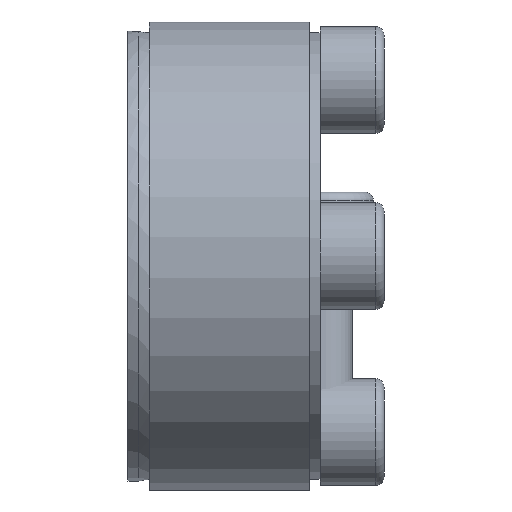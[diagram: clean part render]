
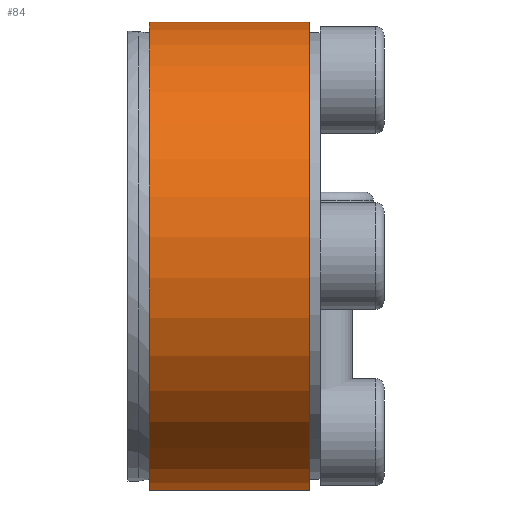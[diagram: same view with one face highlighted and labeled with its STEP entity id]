
A CAD part, left-side view. The second image highlights one B-rep face of the part: STEP entity #84.
In plain terms, the highlighted cylindrical face has radius 22 mm (diameter 44 mm), a partial arc.
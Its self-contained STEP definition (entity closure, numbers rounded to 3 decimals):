
#84 = ADVANCED_FACE( '', ( #171 ), #172, .T. );
#171 = FACE_OUTER_BOUND( '', #281, .T. );
#172 = CYLINDRICAL_SURFACE( '', #282, 22. );
#281 = EDGE_LOOP( '', ( #464, #465, #466, #467 ) );
#282 = AXIS2_PLACEMENT_3D( '', #468, #469, #470 );
#464 = ORIENTED_EDGE( '', *, *, #685, .F. );
#465 = ORIENTED_EDGE( '', *, *, #695, .T. );
#466 = ORIENTED_EDGE( '', *, *, #673, .T. );
#467 = ORIENTED_EDGE( '', *, *, #696, .F. );
#468 = CARTESIAN_POINT( '', ( 0., -60., 0. ) );
#469 = DIRECTION( '', ( 0., 1., 0. ) );
#470 = DIRECTION( '', ( 0., 0., -1. ) );
#673 = EDGE_CURVE( '', #816, #831, #833, .T. );
#685 = EDGE_CURVE( '', #851, #852, #853, .T. );
#695 = EDGE_CURVE( '', #851, #816, #867, .T. );
#696 = EDGE_CURVE( '', #852, #831, #868, .T. );
#816 = VERTEX_POINT( '', #1088 );
#831 = VERTEX_POINT( '', #1113 );
#833 = LINE( '', #1116, #1117 );
#851 = VERTEX_POINT( '', #1138 );
#852 = VERTEX_POINT( '', #1139 );
#853 = LINE( '', #1140, #1141 );
#867 = CIRCLE( '', #1163, 22. );
#868 = CIRCLE( '', #1164, 22. );
#1088 = CARTESIAN_POINT( '', ( 15.906, 16., 15.199 ) );
#1113 = CARTESIAN_POINT( '', ( 15.906, 1., 15.199 ) );
#1116 = CARTESIAN_POINT( '', ( 15.906, -60., 15.199 ) );
#1117 = VECTOR( '', #1268, 1000. );
#1138 = CARTESIAN_POINT( '', ( 15.199, 16., 15.906 ) );
#1139 = CARTESIAN_POINT( '', ( 15.199, 1., 15.906 ) );
#1140 = CARTESIAN_POINT( '', ( 15.199, -60., 15.906 ) );
#1141 = VECTOR( '', #1287, 1000. );
#1163 = AXIS2_PLACEMENT_3D( '', #1296, #1297, #1298 );
#1164 = AXIS2_PLACEMENT_3D( '', #1299, #1300, #1301 );
#1268 = DIRECTION( '', ( 0., -1., 0. ) );
#1287 = DIRECTION( '', ( 0., -1., 0. ) );
#1296 = CARTESIAN_POINT( '', ( 0., 16., 0. ) );
#1297 = DIRECTION( '', ( 0., -1., 0. ) );
#1298 = DIRECTION( '', ( 0., 0., -1. ) );
#1299 = CARTESIAN_POINT( '', ( 0., 1., 0. ) );
#1300 = DIRECTION( '', ( 0., -1., 0. ) );
#1301 = DIRECTION( '', ( 0., 0., -1. ) );
